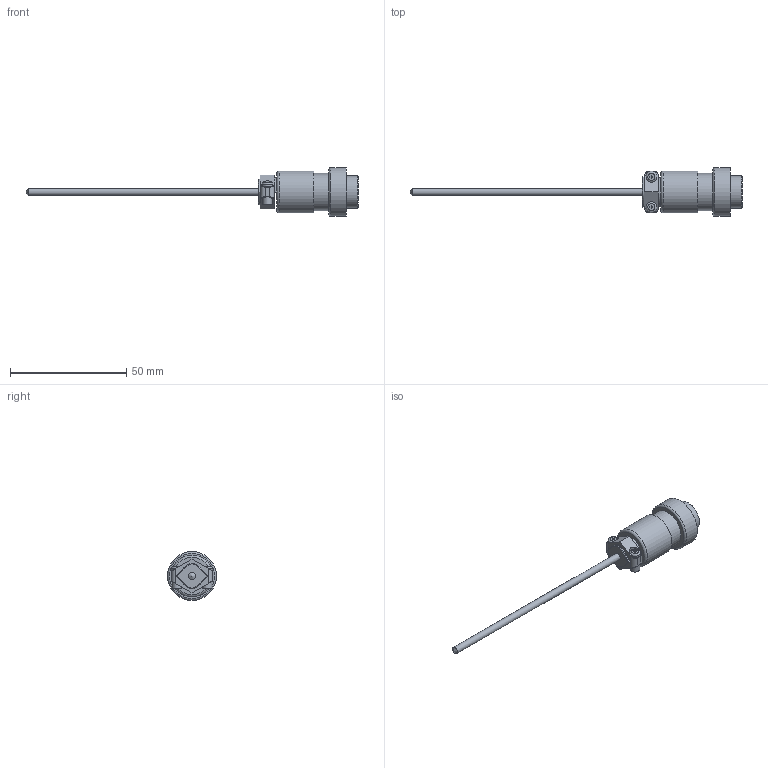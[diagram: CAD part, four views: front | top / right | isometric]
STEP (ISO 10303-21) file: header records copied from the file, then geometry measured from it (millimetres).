
FILE_DESCRIPTION (( 'STEP AP203' ), '1' );
FILE_NAME ('YIR90-1(0).step', '2025-05-28T07:05:53', ( '' ), ( '' ), 'SwSTEP 2.0', 'SolidWorks 2021', '' );
FILE_SCHEMA (( 'CONFIG_CONTROL_DESIGN' ));
Length unit declared in the file: millimetre
Products named in the file (1): YIR90-1(0)
Bounding box: 143 x 21 x 21 mm (x, y, z)
Volume: 8997.9 mm3; surface area: 5700.5 mm2
Topology: 4 solids, 4 shells, 84 faces, 202 edges, 132 vertices
Faces by surface type: plane 50, cylinder 21, torus 4, bspline 4, sphere 3, cone 2
Full cylindrical faces by diameter (mm): 2 x2, 2.5 x1, 3 x1, 4 x2, 4.7 x2, 4.8 x2, 13.5 x1, 14 x1, 16 x2, 18 x1, 21 x1
Entity records: 2421 total; most frequent: CARTESIAN_POINT 621, DIRECTION 336, ORIENTED_EDGE 320, EDGE_CURVE 160, EDGE_LOOP 122, VERTEX_POINT 118, AXIS2_PLACEMENT_3D 117, FACE_OUTER_BOUND 104
